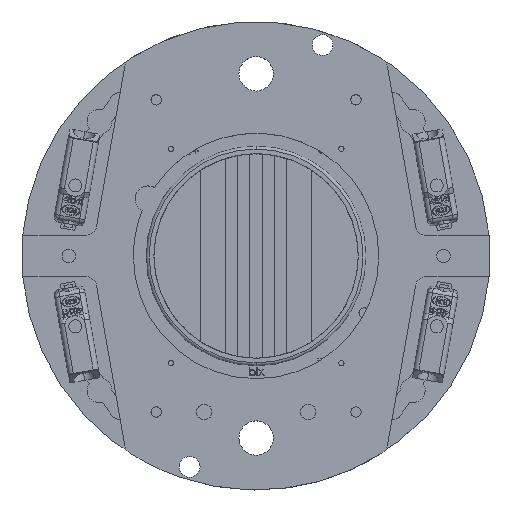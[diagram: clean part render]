
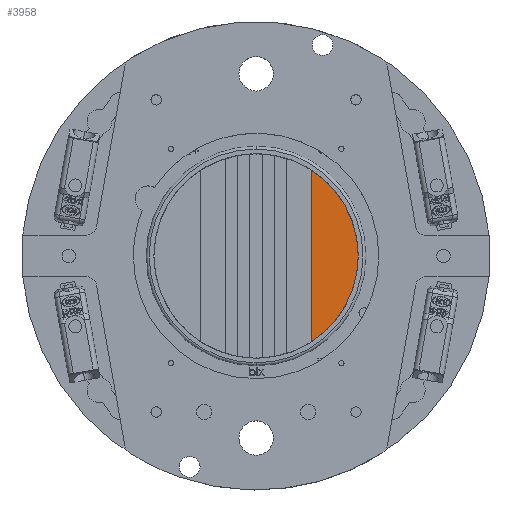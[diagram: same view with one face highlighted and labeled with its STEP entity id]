
A CAD part, top view. The second image highlights one B-rep face of the part: STEP entity #3958.
In plain terms, the highlighted planar face has unit normal (0, 0, 1).
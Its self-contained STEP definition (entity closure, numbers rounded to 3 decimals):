
#3417 = ORIENTED_EDGE ( 'NONE', *, *, #70676, .F. ) ;
#3958 = ADVANCED_FACE ( 'NONE', ( #70405 ), #69981, .F. ) ;
#7452 = AXIS2_PLACEMENT_3D ( 'NONE', #66997, #40276, #8180 ) ;
#8180 = DIRECTION ( 'NONE',  ( 0., 1., 0. ) ) ;
#10259 = DIRECTION ( 'NONE',  ( 0., 0., -1. ) ) ;
#10311 = LINE ( 'NONE', #57248, #75813 ) ;
#13587 = CARTESIAN_POINT ( 'NONE',  ( 5.3, 8.261, 0.617 ) ) ;
#23834 = AXIS2_PLACEMENT_3D ( 'NONE', #30466, #10259, #35574 ) ;
#26306 = EDGE_LOOP ( 'NONE', ( #77279, #3417 ) ) ;
#30098 = DIRECTION ( 'NONE',  ( 0., -1., 0. ) ) ;
#30466 = CARTESIAN_POINT ( 'NONE',  ( 0., 0., 0.617 ) ) ;
#31893 = CIRCLE ( 'NONE', #23834, 9.815 ) ;
#33679 = CARTESIAN_POINT ( 'NONE',  ( 5.3, -8.261, 0.617 ) ) ;
#35574 = DIRECTION ( 'NONE',  ( 0., 1., 0. ) ) ;
#40276 = DIRECTION ( 'NONE',  ( 0., 0., -1. ) ) ;
#53000 = VERTEX_POINT ( 'NONE', #13587 ) ;
#54577 = VERTEX_POINT ( 'NONE', #33679 ) ;
#57248 = CARTESIAN_POINT ( 'NONE',  ( 5.3, 0., 0.617 ) ) ;
#66997 = CARTESIAN_POINT ( 'NONE',  ( -9.815, 0., 0.617 ) ) ;
#69981 = PLANE ( 'NONE',  #7452 ) ;
#70405 = FACE_OUTER_BOUND ( 'NONE', #26306, .T. ) ;
#70676 = EDGE_CURVE ( 'NONE', #53000, #54577, #31893, .T. ) ;
#75813 = VECTOR ( 'NONE', #30098, 1000. ) ;
#77279 = ORIENTED_EDGE ( 'NONE', *, *, #83676, .T. ) ;
#83676 = EDGE_CURVE ( 'NONE', #53000, #54577, #10311, .T. ) ;
